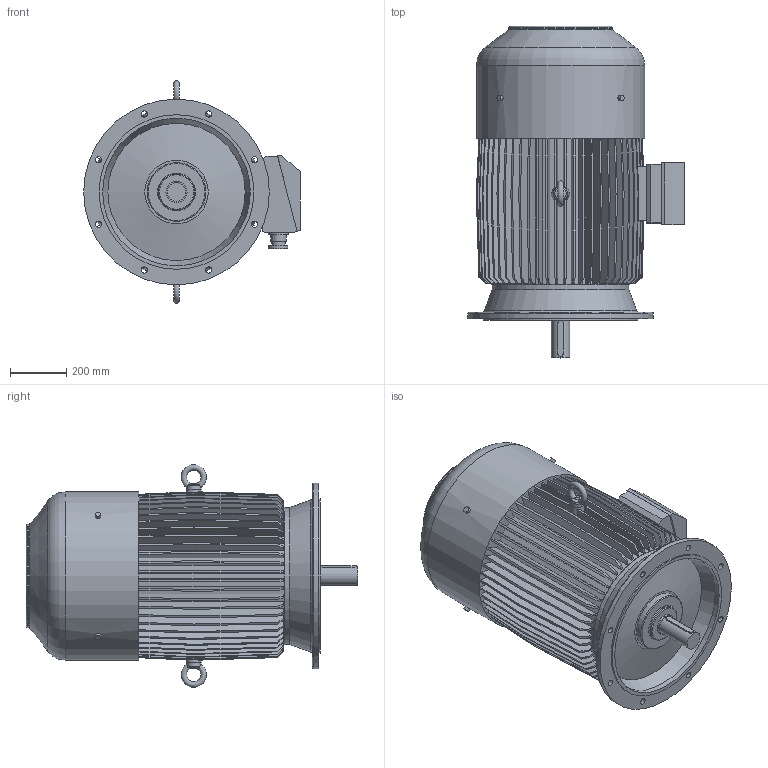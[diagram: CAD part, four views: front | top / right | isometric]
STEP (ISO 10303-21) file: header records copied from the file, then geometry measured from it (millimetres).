
FILE_DESCRIPTION( ( 'Unknown' ), '1' );
FILE_NAME( 'P:/3D_Bry³y silników skatalogowane/2Sg/2Sg315/2SKg315S2_M2.stp', 'Unknown', ( 'Unknown' ), ( 'Unknown' ), 'XStep 1.0', 'Unknown', ' ' );
FILE_SCHEMA( ( 'CONFIG_CONTROL_DESIGN' ) );
Length unit declared in the file: millimetre
Products named in the file (1): 1
Bounding box: 770 x 1180 x 791.99 mm (x, y, z)
Volume: 237796420.3 mm3; surface area: 5597939.5 mm2
Topology: 1 solids, 1 shells, 482 faces, 1355 edges, 899 vertices
Faces by surface type: plane 411, cylinder 46, torus 14, cone 11
Full cylindrical faces by diameter (mm): 20 x4, 22 x8, 38.722 x2, 48.628 x2, 55.029 x2, 65 x1, 67.566 x2, 68.767 x2, 75 x1, 127.917 x1, 208.53 x1, 367.437 x1, 486 x1, 490 x1, 525 x1, 550 x1, 598 x1, 660 x1
Entity records: 16194 total; most frequent: CARTESIAN_POINT 3850, ORIENTED_EDGE 2572, DIRECTION 2430, EDGE_CURVE 1286, LINE 1010, VECTOR 1010, VERTEX_POINT 884, AXIS2_PLACEMENT_3D 710
